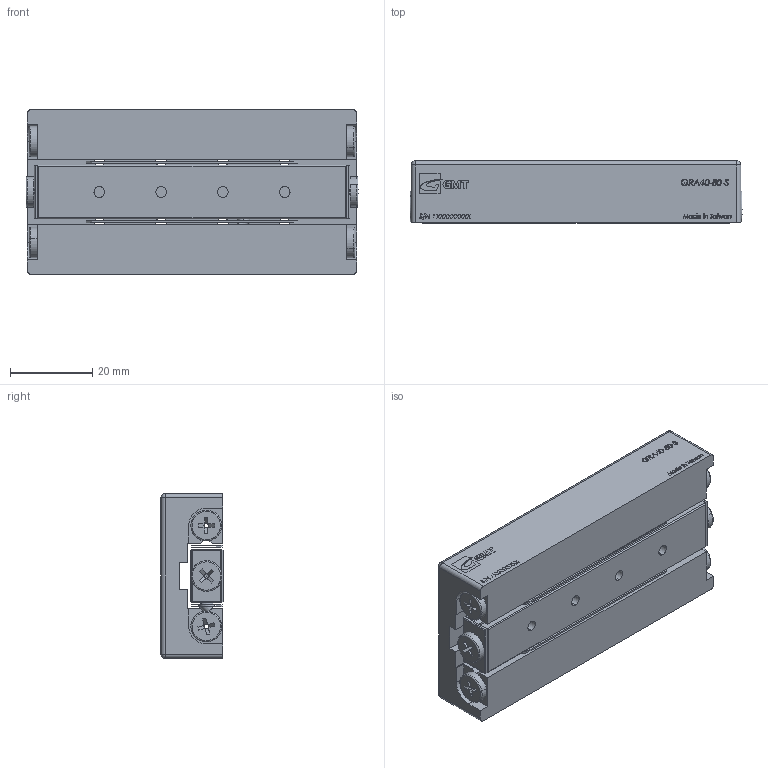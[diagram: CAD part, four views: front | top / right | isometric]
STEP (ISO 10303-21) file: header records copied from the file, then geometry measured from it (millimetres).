
FILE_DESCRIPTION (( 'STEP AP203' ), '1' );
FILE_NAME ('GRA40-80-S.STEP', '2013-12-14T06:13:29', ( '' ), ( '' ), 'SwSTEP 2.0', 'SolidWorks 2013', '' );
FILE_SCHEMA (( 'CONFIG_CONTROL_DESIGN' ));
Length unit declared in the file: millimetre
Products named in the file (1): GRA40-80-S
Bounding box: 80.6 x 15.07 x 40 mm (x, y, z)
Surface area: 16721.4 mm2 (no closed solid volume)
Topology: 0 solids, 51 shells, 352 faces, 2066 edges, 1729 vertices
Faces by surface type: plane 235, cylinder 58, cone 26, torus 24, bspline 5, sphere 4
Entity records: 24325 total; most frequent: CARTESIAN_POINT 9275, ORIENTED_EDGE 2722, DIRECTION 2706, EDGE_CURVE 2060, VERTEX_POINT 1729, LINE 1330, VECTOR 1330, AXIS2_PLACEMENT_3D 688
